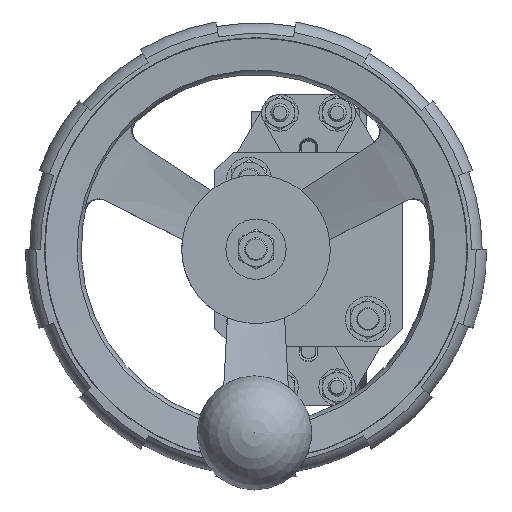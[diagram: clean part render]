
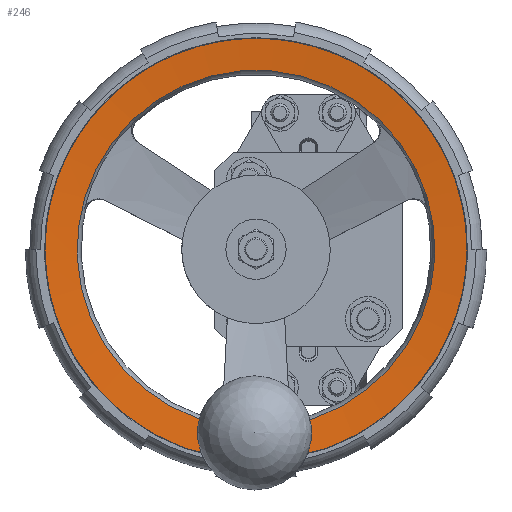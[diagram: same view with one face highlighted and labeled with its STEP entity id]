
A CAD part, top view. The second image highlights one B-rep face of the part: STEP entity #246.
In plain terms, the highlighted conical face has half-angle 85 degrees and reference radius 92.5 mm.
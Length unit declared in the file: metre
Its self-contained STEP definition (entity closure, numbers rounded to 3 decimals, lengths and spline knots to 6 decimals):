
#246=ADVANCED_FACE('',(#1197),#1198,.F.);
#1197=FACE_OUTER_BOUND('',#3266,.T.);
#1198=CONICAL_SURFACE('',#3267,0.0925,1.484);
#3266=EDGE_LOOP('',(#6261,#6262,#6263,#6264,#6265,#6266));
#3267=AXIS2_PLACEMENT_3D('',#6267,#6268,#6269);
#6261=ORIENTED_EDGE('',*,*,#10723,.F.);
#6262=ORIENTED_EDGE('',*,*,#10860,.T.);
#6263=ORIENTED_EDGE('',*,*,#10716,.T.);
#6264=ORIENTED_EDGE('',*,*,#10687,.T.);
#6265=ORIENTED_EDGE('',*,*,#10715,.T.);
#6266=ORIENTED_EDGE('',*,*,#10720,.T.);
#6267=CARTESIAN_POINT('',(-0.023,0.,0.345244));
#6268=DIRECTION('',(-0.0,0.,1.0));
#6269=DIRECTION('',(0.0,1.0,0.));
#10687=EDGE_CURVE('',#12629,#12630,#12631,.T.);
#10715=EDGE_CURVE('',#12630,#12673,#12675,.T.);
#10716=EDGE_CURVE('',#12676,#12629,#12677,.T.);
#10720=EDGE_CURVE('',#12673,#12681,#12684,.T.);
#10723=EDGE_CURVE('',#12688,#12681,#12689,.T.);
#10860=EDGE_CURVE('',#12688,#12676,#12918,.T.);
#12629=VERTEX_POINT('',#16671);
#12630=VERTEX_POINT('',#16672);
#12631=CIRCLE('',#16673,0.07828);
#12673=VERTEX_POINT('',#17162);
#12675=B_SPLINE_CURVE_WITH_KNOTS('',3,(#17165,#17166,#17167,#17168),.UNSPECIFIED.,.F.,.F.,(4,4),(0.000002,0.002702),.UNSPECIFIED.);
#12676=VERTEX_POINT('',#17169);
#12677=B_SPLINE_CURVE_WITH_KNOTS('',3,(#17170,#17171,#17172,#17173,#17174,#17175),.UNSPECIFIED.,.F.,.F.,(4,2,4),(0.019436,0.020778,0.022121),.UNSPECIFIED.);
#12681=VERTEX_POINT('',#17180);
#12684=B_SPLINE_CURVE_WITH_KNOTS('',3,(#17184,#17185,#17186,#17187),.UNSPECIFIED.,.F.,.F.,(4,4),(0.021218,0.032913),.UNSPECIFIED.);
#12688=VERTEX_POINT('',#17192);
#12689=CIRCLE('',#17193,0.0925);
#12918=B_SPLINE_CURVE_WITH_KNOTS('',3,(#17551,#17552,#17553,#17554),.UNSPECIFIED.,.F.,.F.,(4,4),(0.012702,0.024396),.UNSPECIFIED.);
#16671=CARTESIAN_POINT('',(-0.03521,-0.077322,0.344));
#16672=CARTESIAN_POINT('',(-0.01079,-0.077322,0.344));
#16673=AXIS2_PLACEMENT_3D('',#21891,#21892,#21893);
#17162=CARTESIAN_POINT('',(-0.0105,-0.080001,0.344235));
#17165=CARTESIAN_POINT('',(-0.01079,-0.077322,0.344));
#17166=CARTESIAN_POINT('',(-0.010596,-0.078211,0.344079));
#17167=CARTESIAN_POINT('',(-0.0105,-0.079104,0.344158));
#17168=CARTESIAN_POINT('',(-0.0105,-0.080001,0.344235));
#17169=CARTESIAN_POINT('',(-0.0355,-0.080001,0.344235));
#17170=CARTESIAN_POINT('',(-0.0355,-0.080001,0.344235));
#17171=CARTESIAN_POINT('',(-0.0355,-0.079555,0.344197));
#17172=CARTESIAN_POINT('',(-0.035476,-0.079108,0.344158));
#17173=CARTESIAN_POINT('',(-0.035379,-0.078211,0.344079));
#17174=CARTESIAN_POINT('',(-0.035307,-0.077764,0.344039));
#17175=CARTESIAN_POINT('',(-0.03521,-0.077322,0.344));
#17180=CARTESIAN_POINT('',(-0.0105,-0.091652,0.345244));
#17184=CARTESIAN_POINT('',(-0.0105,-0.080001,0.344235));
#17185=CARTESIAN_POINT('',(-0.0105,-0.083885,0.344571));
#17186=CARTESIAN_POINT('',(-0.0105,-0.087768,0.344907));
#17187=CARTESIAN_POINT('',(-0.0105,-0.091652,0.345244));
#17192=CARTESIAN_POINT('',(-0.0355,-0.091652,0.345244));
#17193=AXIS2_PLACEMENT_3D('',#21924,#21925,#21926);
#17551=CARTESIAN_POINT('',(-0.0355,-0.091652,0.345244));
#17552=CARTESIAN_POINT('',(-0.0355,-0.087768,0.344907));
#17553=CARTESIAN_POINT('',(-0.0355,-0.083885,0.344571));
#17554=CARTESIAN_POINT('',(-0.0355,-0.080001,0.344235));
#21891=CARTESIAN_POINT('',(-0.023,0.,0.344));
#21892=DIRECTION('',(0.0,0.,-1.0));
#21893=DIRECTION('',(0.0,-1.0,0.));
#21924=CARTESIAN_POINT('',(-0.023,0.,0.345244));
#21925=DIRECTION('',(0.0,0.,-1.0));
#21926=DIRECTION('',(0.0,-1.0,0.));
